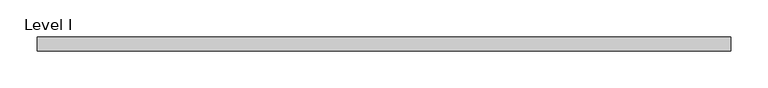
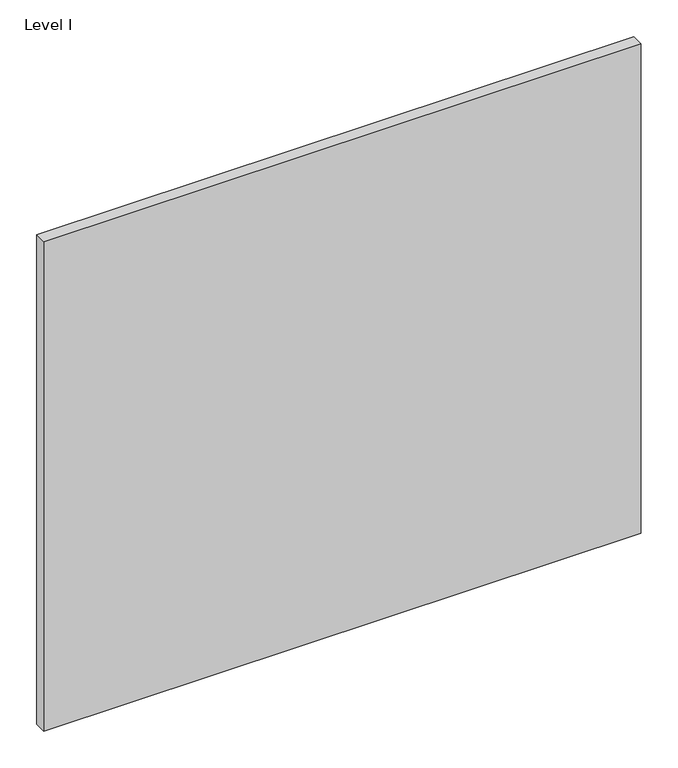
"""IFC4 building model written with IfcOpenShell, lengths in millimetres: proxy geometry, Panel-Fascia-Teknion-Altos-Standard : Level I."""

from ifc_helpers import new_model, si_unit, frame, origin, place, context, project, spatial, polyline, outline, extrude, source, transform, mapped, element, save


def level_i_f9b690e7(model_context):
    return source(origin(), model_context, "Body", "SweptSolid", [
        extrude(outline(polyline([(467.9900391, 9.525), (467.9900391, -9.525), (-467.9900391, -9.525), (-467.9900391, 9.525), (467.9900391, 9.525)])), frame((0.0, 0.0, 3.175), z_axis=(0.0, 0.0, 1.0), x_axis=(1.0, 0.0, 0.0)), (0.0, 0.0, 1.0), 810.768),
    ])


if __name__ == "__main__":
    model = new_model("IFC4")
    model_context = context("Model", 3, world=origin())
    ifc_project = project(units=[si_unit("LENGTHUNIT", "METRE", prefix="MILLI")], contexts=[model_context])
    site = spatial("IfcSite", under=ifc_project)
    building = spatial("IfcBuilding", under=site)
    placement = place(None, origin())
    level_i_shape = level_i_f9b690e7(model_context)
    element("IfcBuildingElementProxy", 1, Name="Panel-Fascia-Teknion-Altos-Standard : Level I", ObjectType="Panel-Fascia-Teknion-Altos-Standard : Level I", at=placement, inside=building, context=model_context, shape_type="MappedRepresentation", body=[
        mapped(level_i_shape, transform((0.0, 0.0, 0.0), x_axis=(1.0, 0.0, 0.0), y_axis=(0.0, 1.0, 0.0), z_axis=(0.0, 0.0, 1.0))),
    ])
    save(model, "model.ifc")
